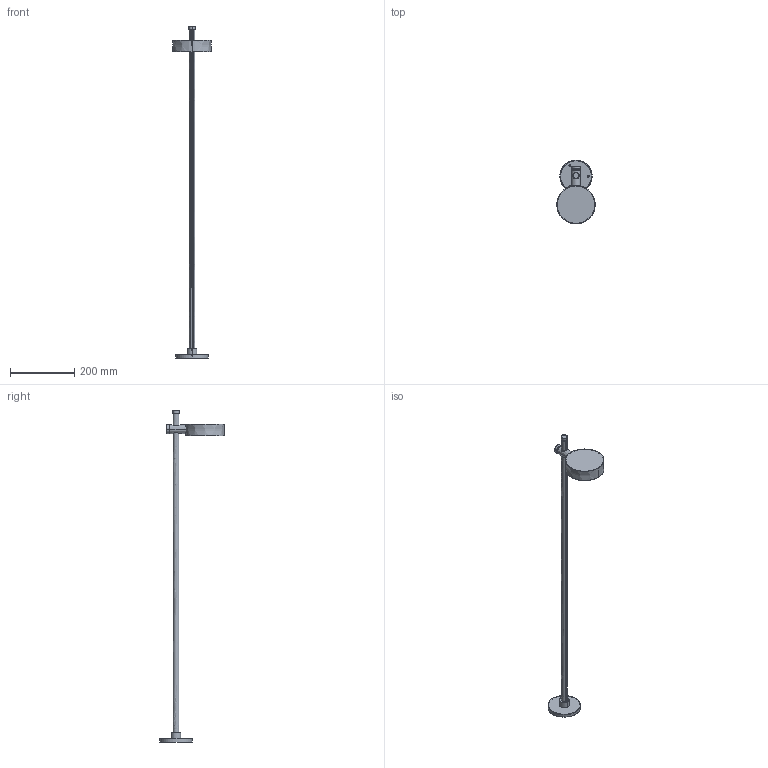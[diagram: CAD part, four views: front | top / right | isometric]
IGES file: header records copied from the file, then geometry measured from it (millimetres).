
Start section: SolidWorks IGES file using analytic representation for surfaces
Global section: file name: C:\Users\anna.bielnik\Desktop\TESSA-LED.IGS; native system: SolidWorks 2023; preprocessor: SolidWorks 2023; author: anna.bielnik; date: 241118.114704; units: millimetre
Bounding box: 120 x 200.96 x 1035.02 mm (x, y, z)
Surface area: 248625 mm2 (no closed solid volume)
Topology: 0 solids, 0 shells, 87 faces, 3132 edges, 3132 vertices
Faces by surface type: revolution 58, bspline 29
